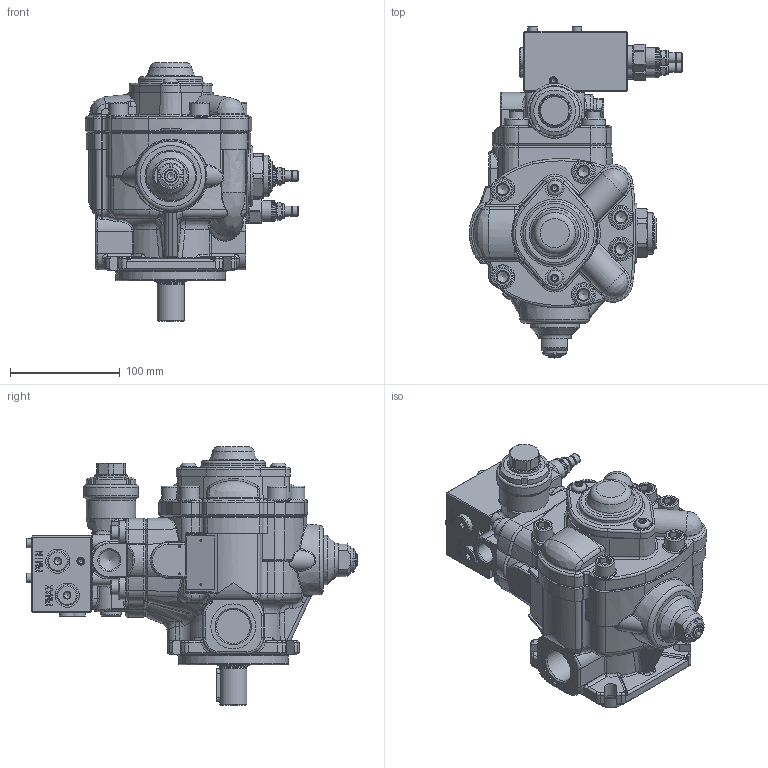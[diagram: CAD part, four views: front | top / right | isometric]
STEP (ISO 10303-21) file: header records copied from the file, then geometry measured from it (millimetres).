
FILE_DESCRIPTION(/* description */ (''),/* implementation_level */ '2;1');
FILE_NAME(/* name */ 'W:\Tecnico\Archivio\Berarma\Dimensioni Pompe\3D Export\Montaggio 3D semplificato\PLP-PHP 1\PHP 1 -A PCS004.stp',/* time_stamp */ '2018-10-09T15:24:02+02:00',/* author */ ('marcop'),/* organization */ (''),/* preprocessor_version */ 'ST-DEVELOPER v17',/* originating_system */ 'Autodesk Inventor 2018',/* authorisation */ '');
FILE_SCHEMA (('AUTOMOTIVE_DESIGN { 1 0 10303 214 3 1 1 }'));
Products named in the file (1): PLP-PHP 1_Shrinkwrap_1
Bounding box: 194.5 x 302.7 x 236 mm (x, y, z)
Volume: 2732416 mm3; surface area: 322328.8 mm2
Topology: 2 solids, 2 shells, 2475 faces, 6421 edges, 4066 vertices
Faces by surface type: plane 982, cylinder 612, bspline 368, torus 250, cone 240, sphere 23
Full cylindrical faces by diameter (mm): 0.9 x6, 1.7 x4, 2.5 x3, 4 x2, 4.134 x2, 5.5 x2, 6 x2, 6.5 x8, 7.2 x1, 7.671 x4, 8 x2, 8.5 x2, 8.566 x4, 9.347 x4, 9.5 x2, 10 x1, 11.445 x2, 12 x4, 13 x4, 13.487 x2, 13.5 x2, 13.767 x4, 14 x6, 14.224 x2, 14.63 x2, 15 x1, 15.5 x1, 16 x3, 17 x2, 17.374 x2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
Entity records: 90863 total; most frequent: CARTESIAN_POINT 30293, ORIENTED_EDGE 12732, DIRECTION 11535, EDGE_CURVE 6366, AXIS2_PLACEMENT_3D 4525, VERTEX_POINT 4066, EDGE_LOOP 2673, LINE 2485
